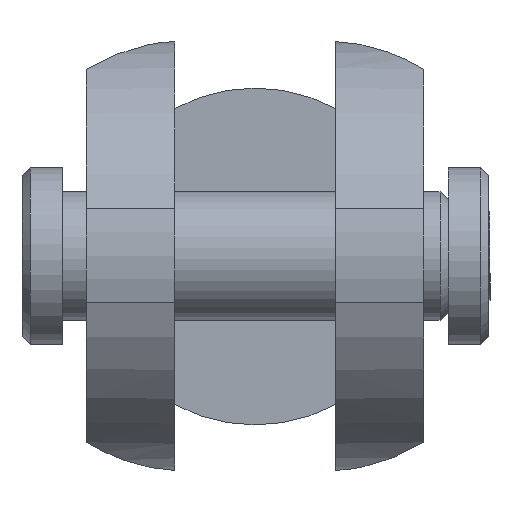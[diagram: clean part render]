
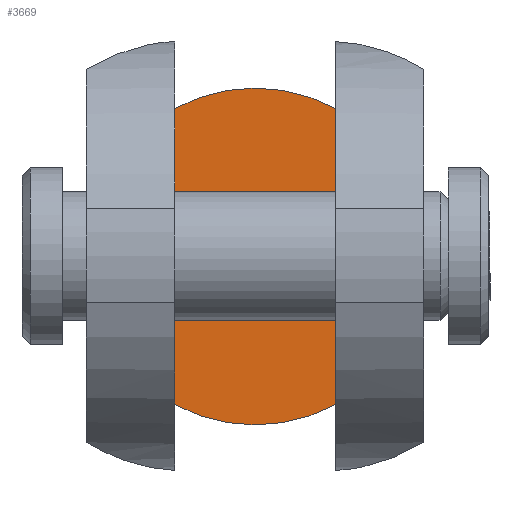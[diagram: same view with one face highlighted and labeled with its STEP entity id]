
A CAD part, top view. The second image highlights one B-rep face of the part: STEP entity #3669.
In plain terms, the highlighted planar face has unit normal (0, 0, 1).
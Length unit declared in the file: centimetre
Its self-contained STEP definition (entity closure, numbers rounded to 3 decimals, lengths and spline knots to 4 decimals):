
#457=LINE('',#6108,#813);
#458=LINE('',#6110,#814);
#813=VECTOR('',#4703,1.8411);
#814=VECTOR('',#4706,1.8411);
#1097=FACE_OUTER_BOUND('',#1344,.T.);
#1344=EDGE_LOOP('',(#3125,#3126,#3127,#3128));
#1378=CIRCLE('',#3754,1.0476);
#1379=CIRCLE('',#3755,1.0476);
#1454=VERTEX_POINT('',#4991);
#1455=VERTEX_POINT('',#4995);
#1460=VERTEX_POINT('',#5023);
#1461=VERTEX_POINT('',#5027);
#1791=EDGE_CURVE('',#1454,#1455,#1378,.T.);
#1797=EDGE_CURVE('',#1460,#1461,#1379,.T.);
#2192=EDGE_CURVE('',#1461,#1454,#457,.T.);
#2193=EDGE_CURVE('',#1460,#1455,#458,.T.);
#3125=ORIENTED_EDGE('',*,*,#1797,.F.);
#3126=ORIENTED_EDGE('',*,*,#2193,.T.);
#3127=ORIENTED_EDGE('',*,*,#1791,.F.);
#3128=ORIENTED_EDGE('',*,*,#2192,.F.);
#3273=PLANE('',#3899);
#3669=ADVANCED_FACE('',(#1097),#3273,.F.);
#3754=AXIS2_PLACEMENT_3D('',#4996,#4079,#4080);
#3755=AXIS2_PLACEMENT_3D('',#5028,#4081,#4082);
#3899=AXIS2_PLACEMENT_3D('',#6109,#4704,#4705);
#4079=DIRECTION('center_axis',(0.,0.,
-1.));
#4080=DIRECTION('ref_axis',(0.,-1.,0.));
#4081=DIRECTION('center_axis',(0.,0.,
-1.));
#4082=DIRECTION('ref_axis',(0.,-1.,0.));
#4703=DIRECTION('',(0.,1.,0.));
#4704=DIRECTION('center_axis',(0.,0.,
-1.));
#4705=DIRECTION('ref_axis',(-1.,0.,0.));
#4706=DIRECTION('',(0.,1.,0.));
#4991=CARTESIAN_POINT('',(-0.5,0.9206,-1.85));
#4995=CARTESIAN_POINT('',(0.5,0.9206,-1.85));
#4996=CARTESIAN_POINT('Origin',(0.,0.,
-1.85));
#5023=CARTESIAN_POINT('',(0.5,-0.9206,-1.85));
#5027=CARTESIAN_POINT('',(-0.5,-0.9206,-1.85));
#5028=CARTESIAN_POINT('Origin',(0.,0.,
-1.85));
#6108=CARTESIAN_POINT('',(-0.5,0.,-1.85));
#6109=CARTESIAN_POINT('Origin',(0.5,0.,-1.85));
#6110=CARTESIAN_POINT('',(0.5,0.,-1.85));
